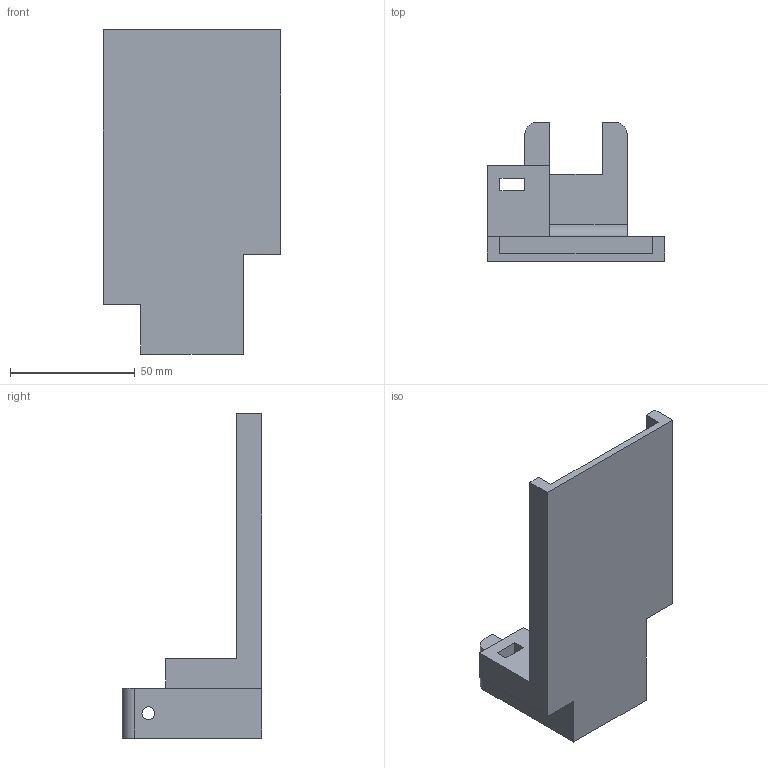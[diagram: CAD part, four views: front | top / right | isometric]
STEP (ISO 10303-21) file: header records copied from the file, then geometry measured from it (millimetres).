
FILE_DESCRIPTION (( 'STEP AP214' ), '1' );
FILE_NAME ('StandMotor.STEP', '2026-07-17T10:13:07', ( '' ), ( '' ), 'SwSTEP 2.0', 'SolidWorks 2024', '' );
FILE_SCHEMA (( 'AUTOMOTIVE_DESIGN' ));
Length unit declared in the file: millimetre
Products named in the file (1): StandMotor
Bounding box: 71 x 56 x 130 mm (x, y, z)
Volume: 83398.2 mm3; surface area: 29303.9 mm2
Topology: 1 solids, 1 shells, 33 faces, 95 edges, 63 vertices
Faces by surface type: plane 26, cylinder 7
Entity records: 1110 total; most frequent: CARTESIAN_POINT 192, ORIENTED_EDGE 190, DIRECTION 177, EDGE_CURVE 95, VECTOR 81, LINE 81, VERTEX_POINT 63, AXIS2_PLACEMENT_3D 48
